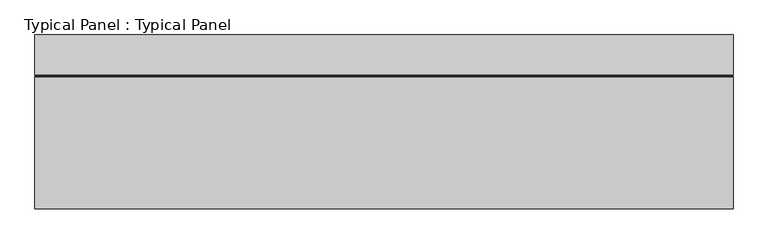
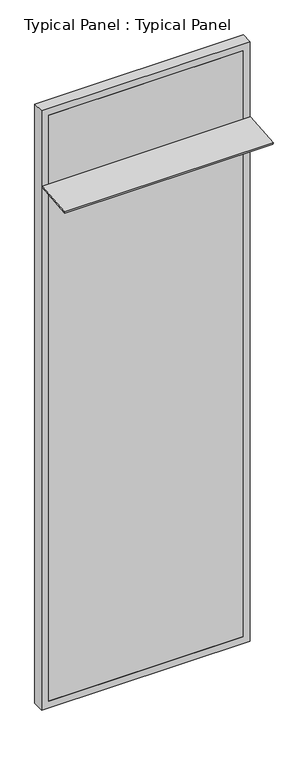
"""IFC4 building model written with IfcOpenShell, lengths in millimetres: plate geometry, Typical Panel : Typical Panel."""

from ifc_helpers import new_model, si_unit, frame, origin, place, context, project, spatial, polyline, outline, extrude, source, transform, mapped, element, save


def typical_panel_typical_panel_8a6a9a35(model_context):
    return source(origin(), model_context, "Body", "SweptSolid", [
        extrude(outline(polyline([(0.0, -250.0), (0.0, 0.0), (1317.1916898, 0.0), (1317.1916898, -250.0), (0.0, -250.0)])), frame((658.5958449, -253.1771171, 3468.2491173), z_axis=(0.0, -0.0871557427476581, 0.9961946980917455), x_axis=(-1.0, 0.0, 0.0)), (0.0, 0.0, 1.0), 10.0),
        extrude(outline(polyline([(0.0, -658.5958449), (0.0, 658.5958449), (4000.0, 658.5958449), (4000.0, -658.5958449), (0.0, -658.5958449)]), holes=[polyline([(45.0, 613.5958449), (45.0, -613.5958449), (3955.0, -613.5958449), (3955.0, 613.5958449), (45.0, 613.5958449)])]), frame((0.0, -1.5797986, 0.0), z_axis=(0.0, 1.0, 0.0), x_axis=(0.0, 0.0, 1.0)), (0.0, 0.0, 1.0), 75.0),
        extrude(outline(polyline([(613.5958449, -1.5797986), (-613.5958449, -1.5797986), (-613.5958449, 13.4202014), (613.5958449, 13.4202014), (613.5958449, -1.5797986)])), frame((0.0, 0.0, 45.0), z_axis=(0.0, 0.0, 1.0), x_axis=(1.0, 0.0, 0.0)), (0.0, 0.0, 1.0), 3910.0),
    ])


if __name__ == "__main__":
    model = new_model("IFC4")
    model_context = context("Model", 3, world=origin())
    ifc_project = project(units=[si_unit("LENGTHUNIT", "METRE", prefix="MILLI")], contexts=[model_context])
    site = spatial("IfcSite", under=ifc_project)
    building = spatial("IfcBuilding", under=site)
    placement = place(None, origin())
    typical_panel_typical_panel_shape = typical_panel_typical_panel_8a6a9a35(model_context)
    element("IfcPlate", 1, ObjectType="Typical Panel : Typical Panel", at=placement, inside=building, context=model_context, shape_type="MappedRepresentation", body=[
        mapped(typical_panel_typical_panel_shape, transform((0.0, 0.0, 0.0), x_axis=(1.0, 0.0, 0.0), y_axis=(0.0, 1.0, 0.0), z_axis=(0.0, 0.0, 1.0))),
    ])
    save(model, "model.ifc")
